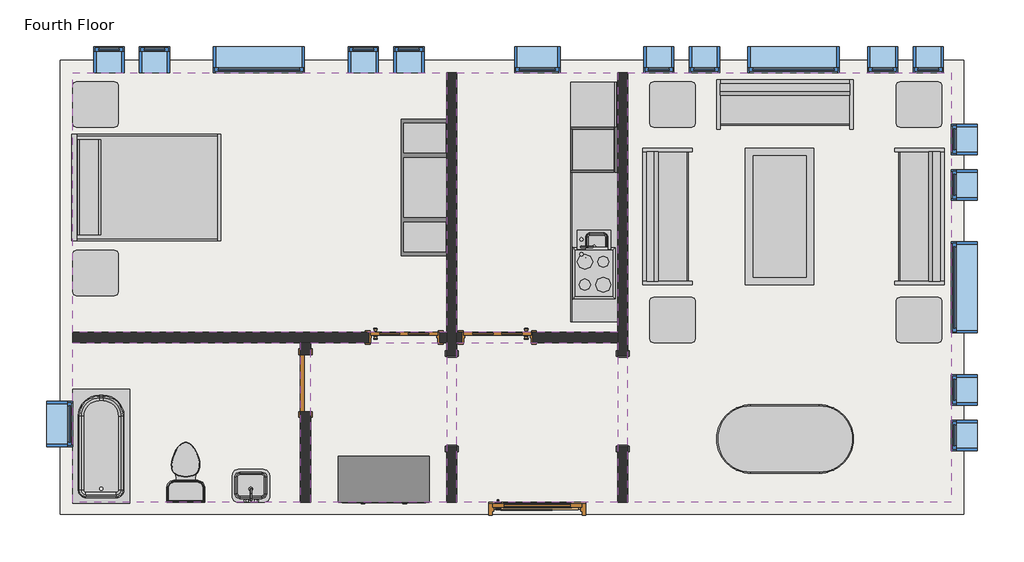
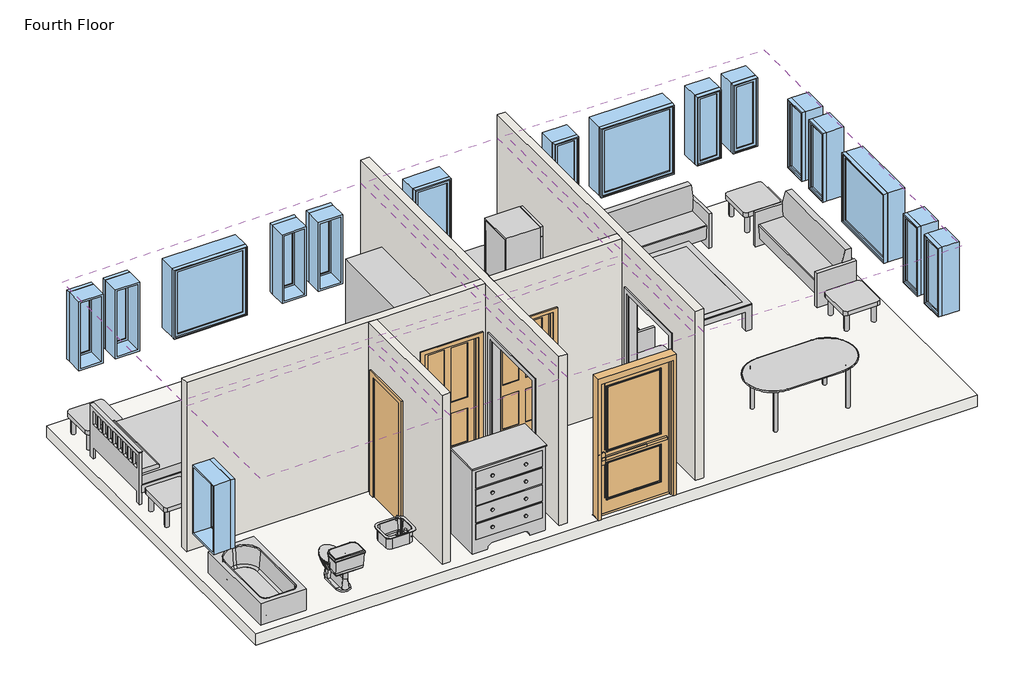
# One storey, incomplete: 17 windows, 15 furniture elements, 6 coverings, 6 proxies, 4 doors, 4 flow terminals, 4 walls, 1 slab.
"""IFC4 building model written with IfcOpenShell, lengths in millimetres."""

from ifc_helpers import new_model, si_unit, frame, origin, place, context, project, spatial, polyline, outline, extrude, faceted_brep, transform, mapped, element, save
from components import m_cook_top_4_unit2_0615_x_500mm_249f3515, m_dishwasher_610_x_610_x_875mm_54ecfc4c, m_kitchenette_medium_m_kitchenette_medium_3ff942c7, m_passage_opening_cased_1220_x_2134_mm_87a8d9c2, m_refrigerator_600_x_660mm_a466bf94, m_door_exterior_single_two_lite_1200_x_2400mm_30e12bfc, m_door_interior_single_4_panel_wood_900_x_2100mm_1f4ed184, m_door_interior_single_4_panel_wood_900_x_2100mm_40914eee, m_single_flush_0762_x_2134mm_0d89e411, m_sink_kitchen_island_450_x_450mm_f969cf2d, m_sink_vanity_square_500_x_440mm_1e229b74, m_toilet_domestic_3d_m_toilet_domestic_3d_5cb52bd4, m_toilet_domestic_3d_m_toilet_domestic_3d_183bbd19, m_tub_rectangular_3d_m_tub_rectangular_3d_3a981ad5, m_bed_shaker_1422_x_1981mm_double_096e7f55, m_counter_top_w_sink_hole_600mm_depth_8ccae52a, m_dresser_1220_x_1525_x_0610mm_18e1f140, m_entertainment_center_1830_x_1830_x_0610mm_f77a9b93, m_sofa_1830mm_f9e8a66b, m_table_coffee_0915_x_1830_x_0457mm_134cd960, m_table_dining_oval_0915_x_1830mm_a7cfbe21, m_table_end_0610_x_0160mm_cb6ea12e, m_fixed_0406_x_1220mm_57fee329, m_fixed_0406_x_1220mm_85c28f40, m_fixed_0610_x_1220mm_2c28ef1d, m_fixed_1220_x_1220_e08ff7af

model = new_model("IFC4")

# Units and contexts
model_context = context("Model", 3, world=origin())
ifc_project = project(units=[si_unit("LENGTHUNIT", "METRE", prefix="MILLI")], contexts=[model_context])

# Site, building, storey
site = spatial("IfcSite", under=ifc_project)
building = spatial("IfcBuilding", under=site)
storey = spatial("IfcBuildingStorey", under=building, Name="Fourth Floor", Elevation=9000.0)

# Proxies
placement = place(None, origin())
m_cook_top_4_unit2_0615_x_500mm_shape = m_cook_top_4_unit2_0615_x_500mm_249f3515(model_context)
element("IfcBuildingElementProxy", 1, Name="M_Cook Top-4 Unit2 : 0615 x 500mm", ObjectType="M_Cook Top-4 Unit2 : 0615 x 500mm", at=placement, inside=storey, context=model_context, shape_type="MappedRepresentation", body=[
    mapped(m_cook_top_4_unit2_0615_x_500mm_shape, transform((-11224.1822145, 11168.140104, 9031.0), x_axis=(0.0, 1.0, 0.0), y_axis=(-1.0, 0.0, 0.0), z_axis=(0.0, 0.0, 1.0))),
])
m_dishwasher_610_x_610_x_875mm_shape = m_dishwasher_610_x_610_x_875mm_54ecfc4c(model_context)
element("IfcBuildingElementProxy", 2, Name="M_Dishwasher : 610 x 610 x 875mm", ObjectType="M_Dishwasher : 610 x 610 x 875mm", at=placement, inside=storey, context=model_context, shape_type="MappedRepresentation", body=[
    mapped(m_dishwasher_610_x_610_x_875mm_shape, transform((-10967.5326497, 13033.8726355, 9000.0), x_axis=(0.0, 1.0, 0.0), y_axis=(-1.0, 0.0, 0.0), z_axis=(0.0, 0.0, 1.0))),
])
m_kitchenette_medium_m_kitchenette_medium_shape = m_kitchenette_medium_m_kitchenette_medium_3ff942c7(model_context)
element("IfcBuildingElementProxy", 3, Name="M_Kitchenette - Medium : M_Kitchenette - Medium", ObjectType="M_Kitchenette - Medium : M_Kitchenette - Medium", at=placement, inside=storey, context=model_context, shape_type="MappedRepresentation", body=[
    mapped(m_kitchenette_medium_m_kitchenette_medium_shape, transform((-11539.1822145, 11797.152399, 9000.0), x_axis=(0.0, 1.0, 0.0), y_axis=(-1.0, 0.0, 0.0), z_axis=(0.0, 0.0, 1.0))),
])
m_passage_opening_cased_1220_x_2134_mm_shape = m_passage_opening_cased_1220_x_2134_mm_87a8d9c2(model_context)
element("IfcBuildingElementProxy", 4, Name="M_Passage Opening-Cased : 1220 x 2134 mm", ObjectType="M_Passage Opening-Cased : 1220 x 2134 mm", at=placement, inside=storey, context=model_context, shape_type="MappedRepresentation", body=[
    mapped(m_passage_opening_cased_1220_x_2134_mm_shape, transform((-10841.0930086, 9462.255705, 9000.0), x_axis=(0.0, 1.0, 0.0), y_axis=(-1.0, 0.0, 0.0), z_axis=(0.0, 0.0, 1.0))),
])
element("IfcBuildingElementProxy", 5, Name="M_Passage Opening-Cased : 1220 x 2134 mm", ObjectType="M_Passage Opening-Cased : 1220 x 2134 mm", at=placement, inside=storey, context=model_context, shape_type="MappedRepresentation", body=[
    mapped(m_passage_opening_cased_1220_x_2134_mm_shape, transform((-13127.0930086, 9445.8783915, 9000.0), x_axis=(0.0, -1.0, 0.0), y_axis=(1.0, 0.0, 0.0), z_axis=(0.0, 0.0, 1.0))),
])
m_refrigerator_600_x_660mm_shape = m_refrigerator_600_x_660mm_a466bf94(model_context)
element("IfcBuildingElementProxy", 6, Name="M_Refrigerator : 600 x 660mm", ObjectType="M_Refrigerator : 600 x 660mm", at=placement, inside=storey, context=model_context, shape_type="MappedRepresentation", body=[
    mapped(m_refrigerator_600_x_660mm_shape, transform((-11242.9671243, 12874.1912466, 9000.0), x_axis=(0.0, 1.0, 0.0), y_axis=(-1.0, 0.0, 0.0), z_axis=(0.0, 0.0, 1.0))),
])

# Coverings
element("IfcCovering", 7, ObjectType="Plain", at=placement, inside=storey, context=model_context, shape_type="SweptSolid", body=[
    extrude(outline(polyline([(-18201.8430086, 13851.0670483), (-13194.8430086, 13851.0670483), (-13194.8430086, 10374.5670483), (-18201.8430086, 10374.5670483), (-18201.8430086, 13851.0670483)])), frame((0.0, 0.0, 11590.0), z_axis=(0.0, 0.0, 1.0), x_axis=(1.0, 0.0, 0.0)), (0.0, 0.0, 1.0), 57.0),
])
element("IfcCovering", 8, ObjectType="Plain", at=placement, inside=storey, context=model_context, shape_type="SweptSolid", body=[
    extrude(outline(polyline([(-13059.3430086, 10374.5670483), (-13059.3430086, 13851.0670483), (-10908.8430086, 13851.0670483), (-10908.8430086, 10374.5670483), (-13059.3430086, 10374.5670483)])), frame((0.0, 0.0, 11590.0), z_axis=(0.0, 0.0, 1.0), x_axis=(1.0, 0.0, 0.0)), (0.0, 0.0, 1.0), 57.0),
])
element("IfcCovering", 9, ObjectType="Plain", at=placement, inside=storey, context=model_context, shape_type="SweptSolid", body=[
    extrude(outline(polyline([(-10773.3430086, 8105.0670483), (-10773.3430086, 13851.0670483), (-6444.0930086, 13851.0670483), (-6444.0930086, 8105.0670483), (-10773.3430086, 8105.0670483)])), frame((0.0, 0.0, 11590.0), z_axis=(0.0, 0.0, 1.0), x_axis=(1.0, 0.0, 0.0)), (0.0, 0.0, 1.0), 57.0),
])
element("IfcCovering", 10, ObjectType="Plain", at=placement, inside=storey, context=model_context, shape_type="SweptSolid", body=[
    extrude(outline(polyline([(-10908.8430086, 8105.0670483), (-13059.3430086, 8105.0670483), (-13059.3430086, 10239.0670483), (-10908.8430086, 10239.0670483), (-10908.8430086, 8105.0670483)])), frame((0.0, 0.0, 11590.0), z_axis=(0.0, 0.0, 1.0), x_axis=(1.0, 0.0, 0.0)), (0.0, 0.0, 1.0), 57.0),
])
element("IfcCovering", 11, ObjectType="Plain", at=placement, inside=storey, context=model_context, shape_type="SweptSolid", body=[
    extrude(outline(polyline([(-13194.8430086, 8105.0670483), (-15018.3430086, 8105.0670483), (-15018.3430086, 10239.0670483), (-13194.8430086, 10239.0670483), (-13194.8430086, 8105.0670483)])), frame((0.0, 0.0, 11590.0), z_axis=(0.0, 0.0, 1.0), x_axis=(1.0, 0.0, 0.0)), (0.0, 0.0, 1.0), 57.0),
])
element("IfcCovering", 12, ObjectType="Plain", at=placement, inside=storey, context=model_context, shape_type="SweptSolid", body=[
    extrude(outline(polyline([(-15153.8430086, 10239.0670483), (-15153.8430086, 8105.0670483), (-18201.8430086, 8105.0670483), (-18201.8430086, 10239.0670483), (-15153.8430086, 10239.0670483)])), frame((0.0, 0.0, 11590.0), z_axis=(0.0, 0.0, 1.0), x_axis=(1.0, 0.0, 0.0)), (0.0, 0.0, 1.0), 57.0),
])

# Doors
m_door_exterior_single_two_lite_1200_x_2400mm_shape = m_door_exterior_single_two_lite_1200_x_2400mm_30e12bfc(model_context)
element("IfcDoor", 13, ObjectType="M_Door-Exterior-Single-Two_Lite : 1200 x 2400mm", at=placement, inside=storey, context=model_context, shape_type="MappedRepresentation", body=[
    mapped(m_door_exterior_single_two_lite_1200_x_2400mm_shape, transform((-11984.0930086, 7923.7170483, 9000.0), x_axis=(1.0, 0.0, 0.0), y_axis=(0.0, 1.0, 0.0), z_axis=(0.0, 0.0, 1.0))),
])
m_door_interior_single_4_panel_wood_900_x_2100mm_shape = m_door_interior_single_4_panel_wood_900_x_2100mm_1f4ed184(model_context)
element("IfcDoor", 14, ObjectType="M_Door-Interior-Single-4_Panel-Wood : 900 x 2100mm", at=placement, inside=storey, context=model_context, shape_type="MappedRepresentation", body=[
    mapped(m_door_interior_single_4_panel_wood_900_x_2100mm_shape, transform((-12518.0930086, 10309.9920483, 9000.0), x_axis=(-1.0, 0.0, 0.0), y_axis=(0.0, -1.0, 0.0), z_axis=(0.0, 0.0, 1.0))),
])
m_door_interior_single_4_panel_wood_900_x_2100mm_2_shape = m_door_interior_single_4_panel_wood_900_x_2100mm_40914eee(model_context)
element("IfcDoor", 15, ObjectType="M_Door-Interior-Single-4_Panel-Wood : 900 x 2100mm", at=placement, inside=storey, context=model_context, shape_type="MappedRepresentation", body=[
    mapped(m_door_interior_single_4_panel_wood_900_x_2100mm_2_shape, transform((-13766.0930086, 10309.9920483, 9000.0), x_axis=(1.0, 0.0, 0.0), y_axis=(0.0, 1.0, 0.0), z_axis=(0.0, 0.0, 1.0))),
])
m_single_flush_0762_x_2134mm_shape = m_single_flush_0762_x_2134mm_0d89e411(model_context)
element("IfcDoor", 16, ObjectType="M_Single-Flush : 0762 x 2134mm", at=placement, inside=storey, context=model_context, shape_type="MappedRepresentation", body=[
    mapped(m_single_flush_0762_x_2134mm_shape, transform((-15086.0930086, 9696.8170483, 9000.0), x_axis=(0.0, 1.0, 0.0), y_axis=(-1.0, 0.0, 0.0), z_axis=(0.0, 0.0, 1.0))),
])

# Flow terminals
m_sink_kitchen_island_450_x_450mm_shape = m_sink_kitchen_island_450_x_450mm_f969cf2d(model_context)
element("IfcFlowTerminal", 17, ObjectType="M_Sink Kitchen-Island : 450 x 450mm", at=placement, inside=storey, context=model_context, shape_type="MappedRepresentation", body=[
    mapped(m_sink_kitchen_island_450_x_450mm_shape, transform((-11223.7368134, 11504.7008634, 9031.0), x_axis=(0.0, 1.0, 0.0), y_axis=(-1.0, 0.0, 0.0), z_axis=(0.0, 0.0, 1.0))),
])
m_sink_vanity_square_500_x_440mm_shape = m_sink_vanity_square_500_x_440mm_1e229b74(model_context)
element("IfcFlowTerminal", 18, ObjectType="M_Sink Vanity-Square : 500 x 440mm", at=placement, inside=storey, context=model_context, shape_type="MappedRepresentation", body=[
    mapped(m_sink_vanity_square_500_x_440mm_shape, transform((-15802.3094072, 8285.2124494, 9000.0), x_axis=(-1.0, 0.0, 0.0), y_axis=(0.0, -1.0, 0.0), z_axis=(0.0, 0.0, 1.0))),
])
m_toilet_domestic_3d_m_toilet_domestic_3d_shape = m_toilet_domestic_3d_m_toilet_domestic_3d_5cb52bd4(model_context)
m_toilet_domestic_3d_m_toilet_domestic_3d_2_shape = m_toilet_domestic_3d_m_toilet_domestic_3d_183bbd19(model_context)
element("IfcFlowTerminal", 19, ObjectType="M_Toilet-Domestic-3D : M_Toilet-Domestic-3D", at=placement, inside=storey, context=model_context, shape_type="MappedRepresentation", body=[
    mapped(m_toilet_domestic_3d_m_toilet_domestic_3d_shape, transform((-16689.489036, 8599.7630756, 9000.0), x_axis=(-1.0, 0.0, 0.0), y_axis=(0.0, -1.0, 0.0), z_axis=(0.0, 0.0, 1.0))),
    mapped(m_toilet_domestic_3d_m_toilet_domestic_3d_2_shape, transform((-16689.489036, 8599.7630756, 9000.0), x_axis=(-1.0, 0.0, 0.0), y_axis=(0.0, -1.0, 0.0), z_axis=(0.0, 0.0, 1.0))),
])
m_tub_rectangular_3d_m_tub_rectangular_3d_shape = m_tub_rectangular_3d_m_tub_rectangular_3d_3a981ad5(model_context)
element("IfcFlowTerminal", 20, ObjectType="M_Tub-Rectangular-3D : M_Tub-Rectangular-3D", at=placement, inside=storey, context=model_context, shape_type="MappedRepresentation", body=[
    mapped(m_tub_rectangular_3d_m_tub_rectangular_3d_shape, transform((-18376.8430086, 9198.170017, 9000.0), x_axis=(0.0, 1.0, 0.0), y_axis=(-1.0, 0.0, 0.0), z_axis=(0.0, 0.0, 1.0))),
])

# Furniture
m_bed_shaker_1422_x_1981mm_double_shape = m_bed_shaker_1422_x_1981mm_double_096e7f55(model_context)
element("IfcFurniture", 21, ObjectType="M_Bed-Shaker : 1422 x 1981mm - Double", at=placement, inside=storey, context=model_context, shape_type="MappedRepresentation", body=[
    mapped(m_bed_shaker_1422_x_1981mm_double_shape, transform((-18201.8430086, 12334.7295483, 9000.0), x_axis=(0.0, 1.0, 0.0), y_axis=(-1.0, 0.0, 0.0), z_axis=(0.0, 0.0, 1.0))),
])
m_counter_top_w_sink_hole_600mm_depth_shape = m_counter_top_w_sink_hole_600mm_depth_8ccae52a(model_context)
element("IfcFurniture", 22, ObjectType="M_Counter Top w Sink Hole : 600mm Depth", at=placement, inside=storey, context=model_context, shape_type="MappedRepresentation", body=[
    mapped(m_counter_top_w_sink_hole_600mm_depth_shape, transform((-11539.1822145, 11720.852399, 9031.0), x_axis=(0.0, 1.0, 0.0), y_axis=(-1.0, 0.0, 0.0), z_axis=(0.0, 0.0, 1.0))),
])
m_dresser_1220_x_1525_x_0610mm_shape = m_dresser_1220_x_1525_x_0610mm_18e1f140(model_context)
element("IfcFurniture", 23, ObjectType="M_Dresser : 1220 x 1525 x 0610mm", at=placement, inside=storey, context=model_context, shape_type="MappedRepresentation", body=[
    mapped(m_dresser_1220_x_1525_x_0610mm_shape, transform((-13767.8997488, 8773.2300024, 9000.0), x_axis=(1.0, 0.0, 0.0), y_axis=(0.0, 1.0, 0.0), z_axis=(0.0, 0.0, 1.0))),
])
m_entertainment_center_1830_x_1830_x_0610mm_shape = m_entertainment_center_1830_x_1830_x_0610mm_f77a9b93(model_context)
element("IfcFurniture", 24, ObjectType="M_Entertainment center : 1830 x 1830 x 0610mm", at=placement, inside=storey, context=model_context, shape_type="MappedRepresentation", body=[
    mapped(m_entertainment_center_1830_x_1830_x_0610mm_shape, transform((-13906.2430086, 12315.6795483, 9000.0), x_axis=(0.0, 1.0, 0.0), y_axis=(-1.0, 0.0, 0.0), z_axis=(0.0, 0.0, 1.0))),
])
m_sofa_1830mm_shape = m_sofa_1830mm_f9e8a66b(model_context)
element("IfcFurniture", 25, ObjectType="M_Sofa : 1830mm", at=placement, inside=storey, context=model_context, shape_type="MappedRepresentation", body=[
    mapped(m_sofa_1830mm_shape, transform((-8739.4635004, 13279.9129499, 9000.0), x_axis=(1.0, 0.0, 0.0), y_axis=(0.0, 1.0, 0.0), z_axis=(0.0, 0.0, 1.0))),
])
element("IfcFurniture", 26, ObjectType="M_Sofa : 1830mm", at=placement, inside=storey, context=model_context, shape_type="MappedRepresentation", body=[
    mapped(m_sofa_1830mm_shape, transform((-7015.247107, 11996.4375401, 9000.0), x_axis=(0.0, -1.0, 0.0), y_axis=(1.0, 0.0, 0.0), z_axis=(0.0, 0.0, 1.0))),
])
element("IfcFurniture", 27, ObjectType="M_Sofa : 1830mm", at=placement, inside=storey, context=model_context, shape_type="MappedRepresentation", body=[
    mapped(m_sofa_1830mm_shape, transform((-10094.9389103, 11855.6965565, 9000.0), x_axis=(0.0, 1.0, 0.0), y_axis=(-1.0, 0.0, 0.0), z_axis=(0.0, 0.0, 1.0))),
])
m_table_coffee_0915_x_1830_x_0457mm_shape = m_table_coffee_0915_x_1830_x_0457mm_134cd960(model_context)
element("IfcFurniture", 28, ObjectType="M_Table-Coffee : 0915 x 1830 x 0457mm", at=placement, inside=storey, context=model_context, shape_type="MappedRepresentation", body=[
    mapped(m_table_coffee_0915_x_1830_x_0457mm_shape, transform((-8645.8819308, 11907.8012816, 9000.0), x_axis=(0.0, 1.0, 0.0), y_axis=(-1.0, 0.0, 0.0), z_axis=(0.0, 0.0, 1.0))),
])
m_table_dining_oval_0915_x_1830mm_shape = m_table_dining_oval_0915_x_1830mm_a7cfbe21(model_context)
element("IfcFurniture", 29, ObjectType="M_Table-Dining Oval : 0915 x 1830mm", at=placement, inside=storey, context=model_context, shape_type="MappedRepresentation", body=[
    mapped(m_table_dining_oval_0915_x_1830mm_shape, transform((-8267.2733365, 9307.4154089, 9000.0), x_axis=(1.0, 0.0, 0.0), y_axis=(0.0, 1.0, 0.0), z_axis=(0.0, 0.0, 1.0))),
])
m_table_end_0610_x_0160mm_shape = m_table_end_0610_x_0160mm_cb6ea12e(model_context)
element("IfcFurniture", 30, ObjectType="M_Table-End : 0610 x 0160mm", at=placement, inside=storey, context=model_context, shape_type="MappedRepresentation", body=[
    mapped(m_table_end_0610_x_0160mm_shape, transform((-10482.8266389, 13273.6670483, 9000.0), x_axis=(1.0, 0.0, 0.0), y_axis=(0.0, 1.0, 0.0), z_axis=(0.0, 0.0, 1.0))),
])
element("IfcFurniture", 31, ObjectType="M_Table-End : 0610 x 0160mm", at=placement, inside=storey, context=model_context, shape_type="MappedRepresentation", body=[
    mapped(m_table_end_0610_x_0160mm_shape, transform((-7182.8266389, 13273.6670483, 9000.0), x_axis=(1.0, 0.0, 0.0), y_axis=(0.0, 1.0, 0.0), z_axis=(0.0, 0.0, 1.0))),
])
element("IfcFurniture", 32, ObjectType="M_Table-End : 0610 x 0160mm", at=placement, inside=storey, context=model_context, shape_type="MappedRepresentation", body=[
    mapped(m_table_end_0610_x_0160mm_shape, transform((-7182.8266389, 10391.6670483, 9000.0), x_axis=(1.0, 0.0, 0.0), y_axis=(0.0, 1.0, 0.0), z_axis=(0.0, 0.0, 1.0))),
])
element("IfcFurniture", 33, ObjectType="M_Table-End : 0610 x 0160mm", at=placement, inside=storey, context=model_context, shape_type="MappedRepresentation", body=[
    mapped(m_table_end_0610_x_0160mm_shape, transform((-10482.8266389, 10391.6670483, 9000.0), x_axis=(1.0, 0.0, 0.0), y_axis=(0.0, 1.0, 0.0), z_axis=(0.0, 0.0, 1.0))),
])
element("IfcFurniture", 34, ObjectType="M_Table-End : 0610 x 0160mm", at=placement, inside=storey, context=model_context, shape_type="MappedRepresentation", body=[
    mapped(m_table_end_0610_x_0160mm_shape, transform((-18205.5766389, 13273.6670483, 9000.0), x_axis=(1.0, 0.0, 0.0), y_axis=(0.0, 1.0, 0.0), z_axis=(0.0, 0.0, 1.0))),
])
element("IfcFurniture", 35, ObjectType="M_Table-End : 0610 x 0160mm", at=placement, inside=storey, context=model_context, shape_type="MappedRepresentation", body=[
    mapped(m_table_end_0610_x_0160mm_shape, transform((-18205.5766389, 11018.6670483, 9000.0), x_axis=(1.0, 0.0, 0.0), y_axis=(0.0, 1.0, 0.0), z_axis=(0.0, 0.0, 1.0))),
])

# Slab
element("IfcSlab", 36, ObjectType="160mm Concrete With 50mm Metal Deck", at=placement, inside=storey, context=model_context, shape_type="SweptSolid", body=[
    extrude(outline(polyline([(-6279.0930086, 14016.0670483), (-6279.0930086, 7940.0670483), (-18366.8430086, 7940.0670483), (-18366.8430086, 14016.0670483), (-6279.0930086, 14016.0670483)])), frame((0.0, 0.0, 8790.0), z_axis=(0.0, 0.0, 1.0), x_axis=(1.0, 0.0, 0.0)), (0.0, 0.0, 1.0), 210.0),
])

# Walls
element("IfcWall", 37, ObjectType="Interior - 135mm Partition (2-hr)", at=placement, inside=storey, context=model_context, shape_type="Brep", body=[
    faceted_brep([(-10908.8430086, 13851.0670483, 9000.0), (-10908.8430086, 10374.5670483, 9000.0), (-10908.8430086, 10239.0670483, 9000.0), (-10908.8430086, 10064.0670483, 9000.0), (-10908.8430086, 10064.0670483, 11134.0), (-10908.8430086, 8844.0670483, 11134.0), (-10908.8430086, 8844.0670483, 9000.0), (-10908.8430086, 8105.0670483, 9000.0), (-10908.8430086, 8105.0670483, 12000.0), (-10908.8430086, 10239.0670483, 12000.0), (-10908.8430086, 10374.5670483, 12000.0), (-10908.8430086, 13851.0670483, 12000.0), (-10773.3430086, 10064.0670483, 11134.0), (-10773.3430086, 10064.0670483, 9000.0), (-10773.3430086, 13851.0670483, 9000.0), (-10773.3430086, 13851.0670483, 12000.0), (-10773.3430086, 8105.0670483, 12000.0), (-10773.3430086, 8105.0670483, 9000.0), (-10773.3430086, 8844.0670483, 9000.0), (-10773.3430086, 8844.0670483, 11134.0)], [[[0, 1, 2, 3, 4, 5, 6, 7, 8, 9, 10, 11]], [[12, 13, 14, 15, 16, 17, 18, 19]], [[18, 17, 7, 6]], [[14, 13, 3, 2, 1, 0]], [[11, 10, 9, 8, 16, 15]], [[6, 5, 19, 18]], [[4, 3, 13, 12]], [[5, 4, 12, 19]], [[0, 11, 15, 14]], [[8, 7, 17, 16]]]),
])
element("IfcWall", 38, ObjectType="Interior - 135mm Partition (2-hr)", at=placement, inside=storey, context=model_context, shape_type="Brep", body=[
    faceted_brep([(-13194.8430086, 8105.0670483, 12000.0), (-13194.8430086, 10239.0670483, 12000.0), (-13194.8430086, 10374.5670483, 12000.0), (-13194.8430086, 13851.0670483, 12000.0), (-13194.8430086, 13851.0670483, 9000.0), (-13194.8430086, 10374.5670483, 9000.0), (-13194.8430086, 10239.0670483, 9000.0), (-13194.8430086, 10064.0670483, 9000.0), (-13194.8430086, 10064.0670483, 11134.0), (-13194.8430086, 8844.0670483, 11134.0), (-13194.8430086, 8844.0670483, 9000.0), (-13194.8430086, 8105.0670483, 9000.0), (-13059.3430086, 13851.0670483, 12000.0), (-13059.3430086, 10374.5670483, 12000.0), (-13059.3430086, 10239.0670483, 12000.0), (-13059.3430086, 8105.0670483, 12000.0), (-13059.3430086, 8105.0670483, 9000.0), (-13059.3430086, 8844.0670483, 9000.0), (-13059.3430086, 8844.0670483, 11134.0), (-13059.3430086, 10064.0670483, 11134.0), (-13059.3430086, 10064.0670483, 9000.0), (-13059.3430086, 10239.0670483, 9000.0), (-13059.3430086, 10374.5670483, 9000.0), (-13059.3430086, 13851.0670483, 9000.0)], [[[0, 1, 2, 3, 4, 5, 6, 7, 8, 9, 10, 11]], [[12, 13, 14, 15, 16, 17, 18, 19, 20, 21, 22, 23]], [[4, 23, 22, 21, 20, 7, 6, 5]], [[16, 11, 10, 17]], [[3, 2, 1, 0, 15, 14, 13, 12]], [[19, 8, 7, 20]], [[9, 18, 17, 10]], [[8, 19, 18, 9]], [[4, 3, 12, 23]], [[0, 11, 16, 15]]]),
])
element("IfcWall", 39, ObjectType="Interior - 135mm Partition (2-hr)", at=placement, inside=storey, context=model_context, shape_type="Brep", body=[
    faceted_brep([(-10908.8430086, 10239.0670483, 9000.0), (-10908.8430086, 10239.0670483, 12000.0), (-13059.3430086, 10239.0670483, 12000.0), (-13059.3430086, 10239.0670483, 9000.0), (-12993.0930086, 10239.0670483, 9000.0), (-12993.0930086, 10239.0670483, 11125.0), (-12043.0930086, 10239.0670483, 11125.0), (-12043.0930086, 10239.0670483, 9000.0), (-10908.8430086, 10374.5670483, 12000.0), (-10908.8430086, 10374.5670483, 9000.0), (-12043.0930086, 10374.5670483, 9000.0), (-12043.0930086, 10374.5670483, 11125.0), (-12993.0930086, 10374.5670483, 11125.0), (-12993.0930086, 10374.5670483, 9000.0), (-13059.3430086, 10374.5670483, 9000.0), (-13059.3430086, 10374.5670483, 12000.0)], [[[0, 1, 2, 3, 4, 5, 6, 7]], [[8, 9, 10, 11, 12, 13, 14, 15]], [[9, 0, 7, 10]], [[13, 4, 3, 14]], [[1, 8, 15, 2]], [[1, 0, 9, 8]], [[3, 2, 15, 14]], [[5, 4, 13, 12]], [[6, 5, 12, 11]], [[7, 6, 11, 10]]]),
    faceted_brep([(-18201.8430086, 10239.0670483, 9000.0), (-15153.8430086, 10239.0670483, 9000.0), (-15018.3430086, 10239.0670483, 9000.0), (-14241.0930086, 10239.0670483, 9000.0), (-14241.0930086, 10239.0670483, 11125.0), (-13291.0930086, 10239.0670483, 11125.0), (-13291.0930086, 10239.0670483, 9000.0), (-13194.8430086, 10239.0670483, 9000.0), (-13194.8430086, 10239.0670483, 12000.0), (-15018.3430086, 10239.0670483, 12000.0), (-15153.8430086, 10239.0670483, 12000.0), (-18201.8430086, 10239.0670483, 12000.0), (-14241.0930086, 10374.5670483, 9000.0), (-18201.8430086, 10374.5670483, 9000.0), (-18201.8430086, 10374.5670483, 12000.0), (-13194.8430086, 10374.5670483, 12000.0), (-13194.8430086, 10374.5670483, 9000.0), (-13291.0930086, 10374.5670483, 9000.0), (-13291.0930086, 10374.5670483, 11125.0), (-14241.0930086, 10374.5670483, 11125.0)], [[[0, 1, 2, 3, 4, 5, 6, 7, 8, 9, 10, 11]], [[12, 13, 14, 15, 16, 17, 18, 19]], [[6, 17, 16, 7]], [[3, 2, 1, 0, 13, 12]], [[14, 11, 10, 9, 8, 15]], [[8, 7, 16, 15]], [[5, 18, 17, 6]], [[18, 5, 4, 19]], [[19, 4, 3, 12]], [[0, 11, 14, 13]]]),
])
element("IfcWall", 40, ObjectType="Interior - 135mm Partition (2-hr)", at=placement, inside=storey, context=model_context, shape_type="SweptSolid", body=[
    extrude(outline(polyline([(10239.0670483, 9000.0), (10077.8170483, 9000.0), (10077.8170483, 11134.0), (9315.8170483, 11134.0), (9315.8170483, 9000.0), (8105.0670483, 9000.0), (8105.0670483, 12000.0), (10239.0670483, 12000.0), (10239.0670483, 9000.0)])), frame((-15153.8430086, 0.0, 0.0), z_axis=(1.0, 0.0, 0.0), x_axis=(0.0, 1.0, 0.0)), (0.0, 0.0, 1.0), 135.5),
])

# Windows
m_fixed_0406_x_1220mm_shape = m_fixed_0406_x_1220mm_57fee329(model_context)
element("IfcWindow", 41, ObjectType="M_Fixed : 0406 x 1220mm", at=placement, inside=storey, context=model_context, shape_type="MappedRepresentation", body=[
    mapped(m_fixed_0406_x_1220mm_shape, transform((-17716.4430086, 14013.0670483, 9000.0), x_axis=(1.0, 0.0, 0.0), y_axis=(0.0, 1.0, 0.0), z_axis=(0.0, 0.0, 1.0))),
])
element("IfcWindow", 42, ObjectType="M_Fixed : 0406 x 1220mm", at=placement, inside=storey, context=model_context, shape_type="MappedRepresentation", body=[
    mapped(m_fixed_0406_x_1220mm_shape, transform((-17106.8430086, 14013.0670483, 9000.0), x_axis=(1.0, 0.0, 0.0), y_axis=(0.0, 1.0, 0.0), z_axis=(0.0, 0.0, 1.0))),
])
element("IfcWindow", 43, ObjectType="M_Fixed : 0406 x 1220mm", at=placement, inside=storey, context=model_context, shape_type="MappedRepresentation", body=[
    mapped(m_fixed_0406_x_1220mm_shape, transform((-9748.4930086, 14039.0670483, 9000.0), x_axis=(-1.0, 0.0, 0.0), y_axis=(0.0, -1.0, 0.0), z_axis=(0.0, 0.0, 1.0))),
])
element("IfcWindow", 44, ObjectType="M_Fixed : 0406 x 1220mm", at=placement, inside=storey, context=model_context, shape_type="MappedRepresentation", body=[
    mapped(m_fixed_0406_x_1220mm_shape, transform((-10358.0930086, 14039.0670483, 9000.0), x_axis=(-1.0, 0.0, 0.0), y_axis=(0.0, -1.0, 0.0), z_axis=(0.0, 0.0, 1.0))),
])
element("IfcWindow", 45, ObjectType="M_Fixed : 0406 x 1220mm", at=placement, inside=storey, context=model_context, shape_type="MappedRepresentation", body=[
    mapped(m_fixed_0406_x_1220mm_shape, transform((-6256.0930086, 12349.6670483, 9000.0), x_axis=(0.0, 1.0, 0.0), y_axis=(-1.0, 0.0, 0.0), z_axis=(0.0, 0.0, 1.0))),
])
element("IfcWindow", 46, ObjectType="M_Fixed : 0406 x 1220mm", at=placement, inside=storey, context=model_context, shape_type="MappedRepresentation", body=[
    mapped(m_fixed_0406_x_1220mm_shape, transform((-6256.0930086, 12959.2670483, 9000.0), x_axis=(0.0, 1.0, 0.0), y_axis=(-1.0, 0.0, 0.0), z_axis=(0.0, 0.0, 1.0))),
])
m_fixed_0406_x_1220mm_2_shape = m_fixed_0406_x_1220mm_85c28f40(model_context)
element("IfcWindow", 47, ObjectType="M_Fixed : 0406 x 1220mm", at=placement, inside=storey, context=model_context, shape_type="MappedRepresentation", body=[
    mapped(m_fixed_0406_x_1220mm_2_shape, transform((-13703.2430086, 14013.0670483, 9000.0), x_axis=(-1.0, 0.0, 0.0), y_axis=(0.0, -1.0, 0.0), z_axis=(0.0, 0.0, 1.0))),
])
element("IfcWindow", 48, ObjectType="M_Fixed : 0406 x 1220mm", at=placement, inside=storey, context=model_context, shape_type="MappedRepresentation", body=[
    mapped(m_fixed_0406_x_1220mm_2_shape, transform((-14312.8430086, 14013.0670483, 9000.0), x_axis=(-1.0, 0.0, 0.0), y_axis=(0.0, -1.0, 0.0), z_axis=(0.0, 0.0, 1.0))),
])
element("IfcWindow", 49, ObjectType="M_Fixed : 0406 x 1220mm", at=placement, inside=storey, context=model_context, shape_type="MappedRepresentation", body=[
    mapped(m_fixed_0406_x_1220mm_2_shape, transform((-7361.6930086, 14039.0670483, 9000.0), x_axis=(1.0, 0.0, 0.0), y_axis=(0.0, 1.0, 0.0), z_axis=(0.0, 0.0, 1.0))),
])
element("IfcWindow", 50, ObjectType="M_Fixed : 0406 x 1220mm", at=placement, inside=storey, context=model_context, shape_type="MappedRepresentation", body=[
    mapped(m_fixed_0406_x_1220mm_2_shape, transform((-6752.0930086, 14039.0670483, 9000.0), x_axis=(1.0, 0.0, 0.0), y_axis=(0.0, 1.0, 0.0), z_axis=(0.0, 0.0, 1.0))),
])
element("IfcWindow", 51, ObjectType="M_Fixed : 0406 x 1220mm", at=placement, inside=storey, context=model_context, shape_type="MappedRepresentation", body=[
    mapped(m_fixed_0406_x_1220mm_2_shape, transform((-6256.0930086, 9606.4670483, 9000.0), x_axis=(0.0, -1.0, 0.0), y_axis=(1.0, 0.0, 0.0), z_axis=(0.0, 0.0, 1.0))),
])
element("IfcWindow", 52, ObjectType="M_Fixed : 0406 x 1220mm", at=placement, inside=storey, context=model_context, shape_type="MappedRepresentation", body=[
    mapped(m_fixed_0406_x_1220mm_2_shape, transform((-6256.0930086, 8996.8670483, 9000.0), x_axis=(0.0, -1.0, 0.0), y_axis=(1.0, 0.0, 0.0), z_axis=(0.0, 0.0, 1.0))),
])
m_fixed_0610_x_1220mm_shape = m_fixed_0610_x_1220mm_2c28ef1d(model_context)
element("IfcWindow", 53, ObjectType="M_Fixed : 0610 x 1220mm", at=placement, inside=storey, context=model_context, shape_type="MappedRepresentation", body=[
    mapped(m_fixed_0610_x_1220mm_shape, transform((-11984.0930086, 14039.0670483, 9000.0), x_axis=(-1.0, 0.0, 0.0), y_axis=(0.0, -1.0, 0.0), z_axis=(0.0, 0.0, 1.0))),
])
element("IfcWindow", 54, ObjectType="M_Fixed : 0610 x 1220mm", at=placement, inside=storey, context=model_context, shape_type="MappedRepresentation", body=[
    mapped(m_fixed_0610_x_1220mm_shape, transform((-18389.8430086, 9150.0670483, 9000.0), x_axis=(0.0, -1.0, 0.0), y_axis=(1.0, 0.0, 0.0), z_axis=(0.0, 0.0, 1.0))),
])
m_fixed_1220_x_1220_shape = m_fixed_1220_x_1220_e08ff7af(model_context)
element("IfcWindow", 55, ObjectType="M_Fixed : 1220 x 1220", at=placement, inside=storey, context=model_context, shape_type="MappedRepresentation", body=[
    mapped(m_fixed_1220_x_1220_shape, transform((-15709.8430086, 14039.0670483, 9000.0), x_axis=(-1.0, 0.0, 0.0), y_axis=(0.0, -1.0, 0.0), z_axis=(0.0, 0.0, 1.0))),
])
element("IfcWindow", 56, ObjectType="M_Fixed : 1220 x 1220", at=placement, inside=storey, context=model_context, shape_type="MappedRepresentation", body=[
    mapped(m_fixed_1220_x_1220_shape, transform((-8555.0930086, 14039.0670483, 9000.0), x_axis=(-1.0, 0.0, 0.0), y_axis=(0.0, -1.0, 0.0), z_axis=(0.0, 0.0, 1.0))),
])
element("IfcWindow", 57, ObjectType="M_Fixed : 1220 x 1220", at=placement, inside=storey, context=model_context, shape_type="MappedRepresentation", body=[
    mapped(m_fixed_1220_x_1220_shape, transform((-6256.0930086, 10978.0670483, 9000.0), x_axis=(0.0, 1.0, 0.0), y_axis=(-1.0, 0.0, 0.0), z_axis=(0.0, 0.0, 1.0))),
])

save(model, "model.ifc")
